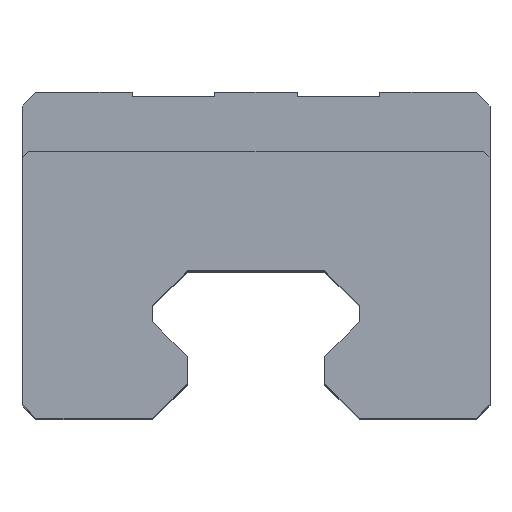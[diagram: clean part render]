
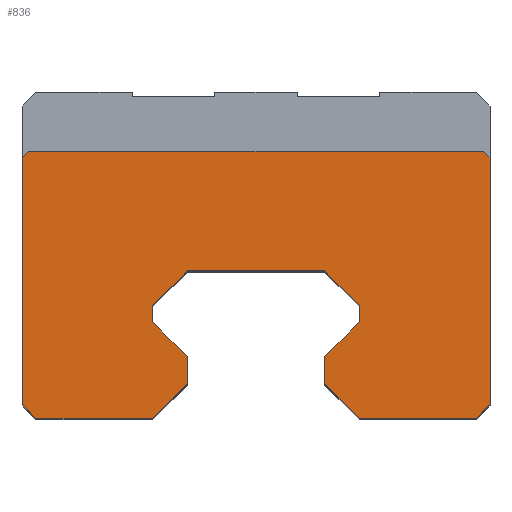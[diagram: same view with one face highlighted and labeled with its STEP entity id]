
A CAD part, top view. The second image highlights one B-rep face of the part: STEP entity #836.
In plain terms, the highlighted planar face has unit normal (0, 0, 1).
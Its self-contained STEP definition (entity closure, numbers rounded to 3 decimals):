
#836=ADVANCED_FACE('',(#1866),#1868,.T.);
#1866=FACE_BOUND('',#1867,.T.);
#1867=EDGE_LOOP('',(#2586,#2587,#2588,#2589,#2590,#2591,#2592,#2593,#2594,#2595,
#2596,#2597,#2598,#2599,#2600,#2601,#2602,#2603,#2604,#2605));
#1868=PLANE('',#1869);
#1869=AXIS2_PLACEMENT_3D('',#1870,#1871,#1872);
#1870=CARTESIAN_POINT('',(0.,0.,30.7));
#1871=DIRECTION('',(0.,0.,1.));
#1872=DIRECTION('',(1.,0.,0.));
#2586=ORIENTED_EDGE('',*,*,#3086,.F.);
#2587=ORIENTED_EDGE('',*,*,#3062,.T.);
#2588=ORIENTED_EDGE('',*,*,#3065,.T.);
#2589=ORIENTED_EDGE('',*,*,#3068,.T.);
#2590=ORIENTED_EDGE('',*,*,#3071,.T.);
#2591=ORIENTED_EDGE('',*,*,#3074,.T.);
#2592=ORIENTED_EDGE('',*,*,#3077,.T.);
#2593=ORIENTED_EDGE('',*,*,#3080,.T.);
#2594=ORIENTED_EDGE('',*,*,#3083,.T.);
#2595=ORIENTED_EDGE('',*,*,#3085,.T.);
#2596=ORIENTED_EDGE('',*,*,#3032,.T.);
#2597=ORIENTED_EDGE('',*,*,#3036,.T.);
#2598=ORIENTED_EDGE('',*,*,#3039,.T.);
#2599=ORIENTED_EDGE('',*,*,#3042,.T.);
#2600=ORIENTED_EDGE('',*,*,#3045,.T.);
#2601=ORIENTED_EDGE('',*,*,#3048,.T.);
#2602=ORIENTED_EDGE('',*,*,#3051,.T.);
#2603=ORIENTED_EDGE('',*,*,#3053,.T.);
#2604=ORIENTED_EDGE('',*,*,#3087,.F.);
#2605=ORIENTED_EDGE('',*,*,#3056,.T.);
#3032=EDGE_CURVE('',#3479,#3477,#3480,.T.);
#3036=EDGE_CURVE('',#3477,#3484,#3486,.T.);
#3039=EDGE_CURVE('',#3484,#3489,#3491,.T.);
#3042=EDGE_CURVE('',#3489,#3494,#3496,.T.);
#3045=EDGE_CURVE('',#3494,#3499,#3501,.T.);
#3048=EDGE_CURVE('',#3499,#3504,#3506,.T.);
#3051=EDGE_CURVE('',#3504,#3509,#3511,.T.);
#3053=EDGE_CURVE('',#3509,#3513,#3515,.T.);
#3056=EDGE_CURVE('',#3520,#3518,#3521,.T.);
#3062=EDGE_CURVE('',#3526,#3530,#3532,.T.);
#3065=EDGE_CURVE('',#3530,#3535,#3537,.T.);
#3068=EDGE_CURVE('',#3535,#3540,#3542,.T.);
#3071=EDGE_CURVE('',#3540,#3545,#3547,.T.);
#3074=EDGE_CURVE('',#3545,#3550,#3552,.T.);
#3077=EDGE_CURVE('',#3550,#3555,#3557,.T.);
#3080=EDGE_CURVE('',#3555,#3560,#3562,.T.);
#3083=EDGE_CURVE('',#3560,#3565,#3567,.T.);
#3085=EDGE_CURVE('',#3565,#3479,#3569,.T.);
#3086=EDGE_CURVE('',#3526,#3518,#3570,.T.);
#3087=EDGE_CURVE('',#3520,#3513,#3571,.T.);
#3477=VERTEX_POINT('',#4367);
#3479=VERTEX_POINT('',#4371);
#3480=LINE('',#4372,#4373);
#3484=VERTEX_POINT('',#4382);
#3486=LINE('',#4386,#4387);
#3489=VERTEX_POINT('',#4393);
#3491=LINE('',#4397,#4398);
#3494=VERTEX_POINT('',#4404);
#3496=LINE('',#4408,#4409);
#3499=VERTEX_POINT('',#4415);
#3501=LINE('',#4419,#4420);
#3504=VERTEX_POINT('',#4426);
#3506=LINE('',#4430,#4431);
#3509=VERTEX_POINT('',#4437);
#3511=LINE('',#4441,#4442);
#3513=VERTEX_POINT('',#4445);
#3515=LINE('',#4449,#4450);
#3518=VERTEX_POINT('',#4456);
#3520=VERTEX_POINT('',#4460);
#3521=LINE('',#4461,#4462);
#3526=VERTEX_POINT('',#4472);
#3530=VERTEX_POINT('',#4480);
#3532=LINE('',#4484,#4485);
#3535=VERTEX_POINT('',#4491);
#3537=LINE('',#4495,#4496);
#3540=VERTEX_POINT('',#4502);
#3542=LINE('',#4506,#4507);
#3545=VERTEX_POINT('',#4513);
#3547=LINE('',#4517,#4518);
#3550=VERTEX_POINT('',#4524);
#3552=LINE('',#4528,#4529);
#3555=VERTEX_POINT('',#4535);
#3557=LINE('',#4539,#4540);
#3560=VERTEX_POINT('',#4546);
#3562=LINE('',#4550,#4551);
#3565=VERTEX_POINT('',#4557);
#3567=LINE('',#4561,#4562);
#3569=LINE('',#4567,#4568);
#3570=LINE('',#4570,#4571);
#3571=LINE('',#4573,#4574);
#4367=CARTESIAN_POINT('',(7.5,-11.5,30.7));
#4371=CARTESIAN_POINT('',(5.,-9.,30.7));
#4372=CARTESIAN_POINT('',(5.,-9.,30.7));
#4373=VECTOR('',#4374,1.);
#4374=DIRECTION('',(0.707,-0.707,0.));
#4382=CARTESIAN_POINT('',(7.5,-12.7,30.7));
#4386=CARTESIAN_POINT('',(7.5,-11.5,30.7));
#4387=VECTOR('',#4388,1.);
#4388=DIRECTION('',(0.,-1.,0.));
#4393=CARTESIAN_POINT('',(5.,-15.2,30.7));
#4397=CARTESIAN_POINT('',(7.5,-12.7,30.7));
#4398=VECTOR('',#4399,1.);
#4399=DIRECTION('',(-0.707,-0.707,0.));
#4404=CARTESIAN_POINT('',(5.,-17.2,30.7));
#4408=CARTESIAN_POINT('',(5.,-15.2,30.7));
#4409=VECTOR('',#4410,1.);
#4410=DIRECTION('',(0.,-1.,0.));
#4415=CARTESIAN_POINT('',(7.5,-19.7,30.7));
#4419=CARTESIAN_POINT('',(5.,-17.2,30.7));
#4420=VECTOR('',#4421,1.);
#4421=DIRECTION('',(0.707,-0.707,0.));
#4426=CARTESIAN_POINT('',(16.,-19.7,30.7));
#4430=CARTESIAN_POINT('',(7.5,-19.7,30.7));
#4431=VECTOR('',#4432,1.);
#4432=DIRECTION('',(1.,0.,0.));
#4437=CARTESIAN_POINT('',(17.,-18.7,30.7));
#4441=CARTESIAN_POINT('',(16.,-19.7,30.7));
#4442=VECTOR('',#4443,1.);
#4443=DIRECTION('',(0.707,0.707,0.));
#4445=CARTESIAN_POINT('',(17.,-0.8,30.7));
#4449=CARTESIAN_POINT('',(17.,-18.7,30.7));
#4450=VECTOR('',#4451,1.);
#4451=DIRECTION('',(0.,1.,0.));
#4456=CARTESIAN_POINT('',(-16.5,-0.3,30.7));
#4460=CARTESIAN_POINT('',(16.5,-0.3,30.7));
#4461=CARTESIAN_POINT('',(16.5,-0.3,30.7));
#4462=VECTOR('',#4463,1.);
#4463=DIRECTION('',(-1.,0.,0.));
#4472=CARTESIAN_POINT('',(-17.,-0.8,30.7));
#4480=CARTESIAN_POINT('',(-17.,-18.7,30.7));
#4484=CARTESIAN_POINT('',(-17.,-0.8,30.7));
#4485=VECTOR('',#4486,1.);
#4486=DIRECTION('',(0.,-1.,0.));
#4491=CARTESIAN_POINT('',(-16.,-19.7,30.7));
#4495=CARTESIAN_POINT('',(-17.,-18.7,30.7));
#4496=VECTOR('',#4497,1.);
#4497=DIRECTION('',(0.707,-0.707,0.));
#4502=CARTESIAN_POINT('',(-7.5,-19.7,30.7));
#4506=CARTESIAN_POINT('',(-16.,-19.7,30.7));
#4507=VECTOR('',#4508,1.);
#4508=DIRECTION('',(1.,0.,0.));
#4513=CARTESIAN_POINT('',(-5.,-17.2,30.7));
#4517=CARTESIAN_POINT('',(-7.5,-19.7,30.7));
#4518=VECTOR('',#4519,1.);
#4519=DIRECTION('',(0.707,0.707,0.));
#4524=CARTESIAN_POINT('',(-5.,-15.2,30.7));
#4528=CARTESIAN_POINT('',(-5.,-17.2,30.7));
#4529=VECTOR('',#4530,1.);
#4530=DIRECTION('',(0.,1.,0.));
#4535=CARTESIAN_POINT('',(-7.5,-12.7,30.7));
#4539=CARTESIAN_POINT('',(-5.,-15.2,30.7));
#4540=VECTOR('',#4541,1.);
#4541=DIRECTION('',(-0.707,0.707,0.));
#4546=CARTESIAN_POINT('',(-7.5,-11.5,30.7));
#4550=CARTESIAN_POINT('',(-7.5,-12.7,30.7));
#4551=VECTOR('',#4552,1.);
#4552=DIRECTION('',(0.,1.,0.));
#4557=CARTESIAN_POINT('',(-5.,-9.,30.7));
#4561=CARTESIAN_POINT('',(-7.5,-11.5,30.7));
#4562=VECTOR('',#4563,1.);
#4563=DIRECTION('',(0.707,0.707,0.));
#4567=CARTESIAN_POINT('',(-5.,-9.,30.7));
#4568=VECTOR('',#4569,1.);
#4569=DIRECTION('',(1.,0.,0.));
#4570=CARTESIAN_POINT('',(-17.,-0.8,30.7));
#4571=VECTOR('',#4572,1.);
#4572=DIRECTION('',(0.707,0.707,0.));
#4573=CARTESIAN_POINT('',(16.5,-0.3,30.7));
#4574=VECTOR('',#4575,1.);
#4575=DIRECTION('',(0.707,-0.707,0.));
